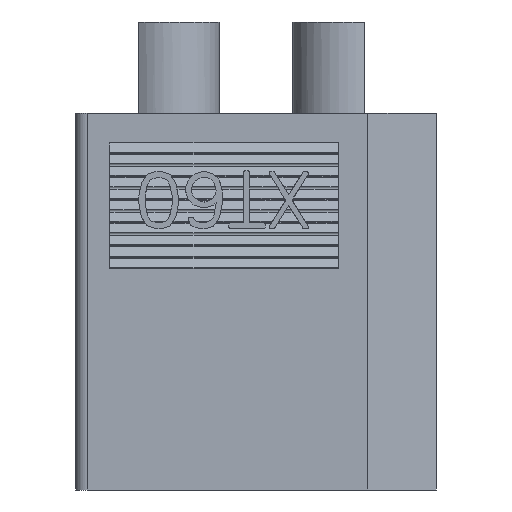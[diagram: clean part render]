
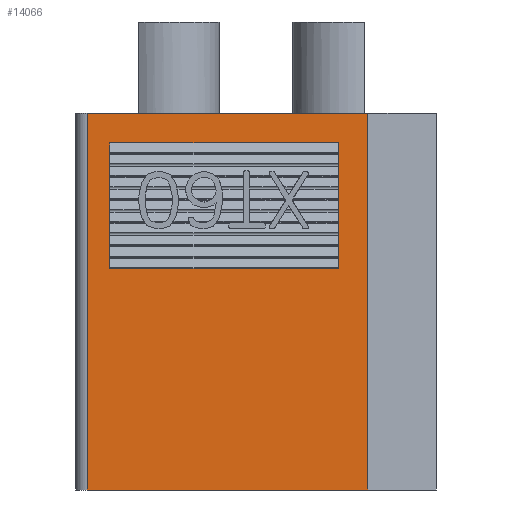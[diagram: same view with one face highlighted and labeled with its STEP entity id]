
A CAD part, front view. The second image highlights one B-rep face of the part: STEP entity #14066.
In plain terms, the highlighted planar face has unit normal (0, -1, 0).
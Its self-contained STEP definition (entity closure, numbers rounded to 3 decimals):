
#722 = VERTEX_POINT ( 'NONE', #20795 ) ;
#1801 = CARTESIAN_POINT ( 'NONE',  ( -7.9, -3.95, 0. ) ) ;
#2116 = VECTOR ( 'NONE', #24239, 1000. ) ;
#2289 = VERTEX_POINT ( 'NONE', #20576 ) ;
#2335 = CARTESIAN_POINT ( 'NONE',  ( 4.9, -3.95, 0. ) ) ;
#2586 = CARTESIAN_POINT ( 'NONE',  ( -7.9, -3.95, 16.5 ) ) ;
#3614 = ORIENTED_EDGE ( 'NONE', *, *, #26054, .T. ) ;
#4204 = CARTESIAN_POINT ( 'NONE',  ( 3.6, -3.95, 16.5 ) ) ;
#5294 = EDGE_CURVE ( 'NONE', #722, #2289, #22184, .T. ) ;
#5823 = LINE ( 'NONE', #20265, #24165 ) ;
#6001 = DIRECTION ( 'NONE',  ( 0., 0., -1. ) ) ;
#6502 = DIRECTION ( 'NONE',  ( 1., 0., 0. ) ) ;
#6681 = VERTEX_POINT ( 'NONE', #7154 ) ;
#6947 = VECTOR ( 'NONE', #14437, 1000. ) ;
#7143 = FACE_OUTER_BOUND ( 'NONE', #11086, .T. ) ;
#7154 = CARTESIAN_POINT ( 'NONE',  ( -7.4, -3.95, 16.5 ) ) ;
#7509 = DIRECTION ( 'NONE',  ( 0., 0., 1. ) ) ;
#7671 = EDGE_CURVE ( 'NONE', #6681, #21826, #9056, .T. ) ;
#7679 = VERTEX_POINT ( 'NONE', #23910 ) ;
#7980 = ORIENTED_EDGE ( 'NONE', *, *, #28043, .T. ) ;
#8297 = VERTEX_POINT ( 'NONE', #22553 ) ;
#8690 = DIRECTION ( 'NONE',  ( 1., 0., 0. ) ) ;
#8758 = VERTEX_POINT ( 'NONE', #2335 ) ;
#9056 = LINE ( 'NONE', #2586, #27502 ) ;
#9502 = DIRECTION ( 'NONE',  ( 1., 0., 0. ) ) ;
#10003 = PLANE ( 'NONE',  #27013 ) ;
#10280 = VECTOR ( 'NONE', #8690, 1000. ) ;
#10295 = DIRECTION ( 'NONE',  ( 0., 0., -1. ) ) ;
#11086 = EDGE_LOOP ( 'NONE', ( #26240, #7980, #18319, #30137 ) ) ;
#11649 = EDGE_CURVE ( 'NONE', #2289, #25543, #12252, .T. ) ;
#12121 = EDGE_CURVE ( 'NONE', #7679, #722, #16212, .T. ) ;
#12208 = CARTESIAN_POINT ( 'NONE',  ( -7.9, -3.95, 16.5 ) ) ;
#12252 = LINE ( 'NONE', #21907, #16050 ) ;
#12533 = VECTOR ( 'NONE', #6502, 1000. ) ;
#12857 = CARTESIAN_POINT ( 'NONE',  ( 4.9, -3.95, 16.5 ) ) ;
#13760 = VECTOR ( 'NONE', #10295, 1000. ) ;
#14066 = ADVANCED_FACE ( 'NONE', ( #7143, #21726 ), #10003, .F. ) ;
#14203 = EDGE_CURVE ( 'NONE', #21826, #8758, #27344, .T. ) ;
#14422 = ORIENTED_EDGE ( 'NONE', *, *, #11649, .T. ) ;
#14437 = DIRECTION ( 'NONE',  ( 0., 0., -1. ) ) ;
#16050 = VECTOR ( 'NONE', #7509, 1000. ) ;
#16212 = LINE ( 'NONE', #4204, #6947 ) ;
#16964 = EDGE_CURVE ( 'NONE', #8297, #8758, #20769, .T. ) ;
#17458 = ORIENTED_EDGE ( 'NONE', *, *, #12121, .T. ) ;
#18004 = CARTESIAN_POINT ( 'NONE',  ( -7.9, -3.95, 15.2 ) ) ;
#18319 = ORIENTED_EDGE ( 'NONE', *, *, #16964, .T. ) ;
#19386 = CARTESIAN_POINT ( 'NONE',  ( -6.4, -3.95, 15.2 ) ) ;
#20265 = CARTESIAN_POINT ( 'NONE',  ( -7.4, -3.95, 16.5 ) ) ;
#20576 = CARTESIAN_POINT ( 'NONE',  ( -6.4, -3.95, 9.7 ) ) ;
#20769 = LINE ( 'NONE', #1801, #12533 ) ;
#20795 = CARTESIAN_POINT ( 'NONE',  ( 3.6, -3.95, 9.7 ) ) ;
#21726 = FACE_BOUND ( 'NONE', #23215, .T. ) ;
#21826 = VERTEX_POINT ( 'NONE', #12857 ) ;
#21907 = CARTESIAN_POINT ( 'NONE',  ( -6.4, -3.95, 16.5 ) ) ;
#22184 = LINE ( 'NONE', #26878, #2116 ) ;
#22553 = CARTESIAN_POINT ( 'NONE',  ( -7.4, -3.95, 0. ) ) ;
#22977 = CARTESIAN_POINT ( 'NONE',  ( 4.9, -3.95, 16.5 ) ) ;
#23087 = LINE ( 'NONE', #18004, #10280 ) ;
#23215 = EDGE_LOOP ( 'NONE', ( #30883, #14422, #3614, #17458 ) ) ;
#23910 = CARTESIAN_POINT ( 'NONE',  ( 3.6, -3.95, 15.2 ) ) ;
#24165 = VECTOR ( 'NONE', #6001, 1000. ) ;
#24239 = DIRECTION ( 'NONE',  ( -1., 0., 0. ) ) ;
#25543 = VERTEX_POINT ( 'NONE', #19386 ) ;
#26054 = EDGE_CURVE ( 'NONE', #25543, #7679, #23087, .T. ) ;
#26240 = ORIENTED_EDGE ( 'NONE', *, *, #7671, .F. ) ;
#26878 = CARTESIAN_POINT ( 'NONE',  ( -7.9, -3.95, 9.7 ) ) ;
#27013 = AXIS2_PLACEMENT_3D ( 'NONE', #12208, #29083, #29244 ) ;
#27344 = LINE ( 'NONE', #22977, #13760 ) ;
#27502 = VECTOR ( 'NONE', #9502, 1000. ) ;
#28043 = EDGE_CURVE ( 'NONE', #6681, #8297, #5823, .T. ) ;
#29083 = DIRECTION ( 'NONE',  ( 0., 1., 0. ) ) ;
#29244 = DIRECTION ( 'NONE',  ( 0., 0., 1. ) ) ;
#30137 = ORIENTED_EDGE ( 'NONE', *, *, #14203, .F. ) ;
#30883 = ORIENTED_EDGE ( 'NONE', *, *, #5294, .T. ) ;
